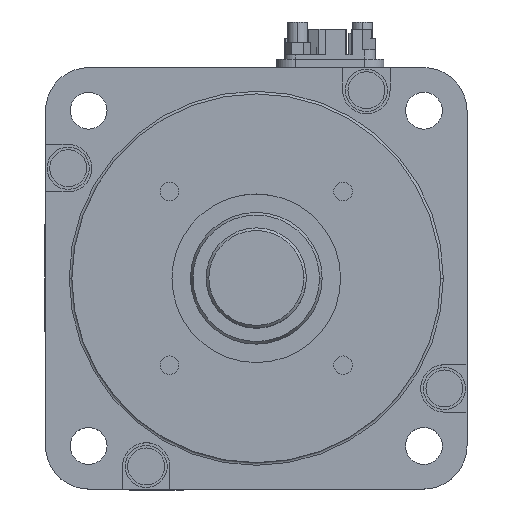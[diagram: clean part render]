
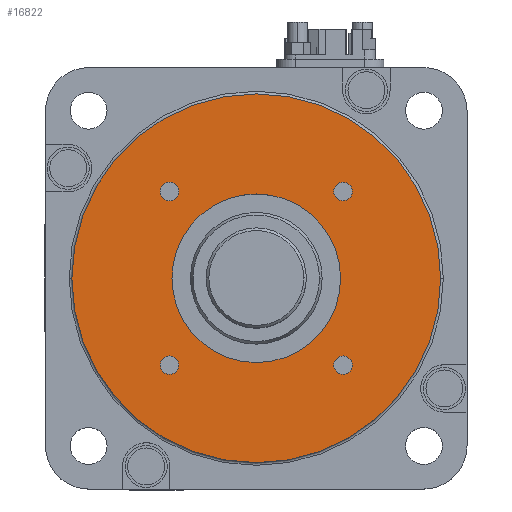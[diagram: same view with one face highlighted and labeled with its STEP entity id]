
A CAD part, top view. The second image highlights one B-rep face of the part: STEP entity #16822.
In plain terms, the highlighted planar face has unit normal (0, 0, 1).
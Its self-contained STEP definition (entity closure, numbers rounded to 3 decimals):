
#28 = EDGE_CURVE ( 'NONE', #3398, #453, #7242, .T. ) ;
#31 = FACE_BOUND ( 'NONE', #11445, .T. ) ;
#201 = CARTESIAN_POINT ( 'NONE',  ( -16.476, 16.476, 3. ) ) ;
#213 = VERTEX_POINT ( 'NONE', #712 ) ;
#236 = CARTESIAN_POINT ( 'NONE',  ( -16.476, -16.476, 3. ) ) ;
#407 = AXIS2_PLACEMENT_3D ( 'NONE', #236, #11224, #1831 ) ;
#453 = VERTEX_POINT ( 'NONE', #6828 ) ;
#604 = EDGE_CURVE ( 'NONE', #2111, #931, #1039, .T. ) ;
#652 = DIRECTION ( 'NONE',  ( 1., 0., 0. ) ) ;
#712 = CARTESIAN_POINT ( 'NONE',  ( 14.726, -16.476, 3. ) ) ;
#886 = DIRECTION ( 'NONE',  ( 0., 0., 1. ) ) ;
#931 = VERTEX_POINT ( 'NONE', #17117 ) ;
#934 = ORIENTED_EDGE ( 'NONE', *, *, #20324, .F. ) ;
#1039 = CIRCLE ( 'NONE', #17967, 1.75 ) ;
#1301 = VERTEX_POINT ( 'NONE', #15784 ) ;
#1507 = CARTESIAN_POINT ( 'NONE',  ( -16.476, -16.476, 3. ) ) ;
#1652 = AXIS2_PLACEMENT_3D ( 'NONE', #14208, #17245, #9439 ) ;
#1831 = DIRECTION ( 'NONE',  ( 1., 0., 0. ) ) ;
#1932 = CARTESIAN_POINT ( 'NONE',  ( 0., 0., 3. ) ) ;
#2111 = VERTEX_POINT ( 'NONE', #4264 ) ;
#2142 = AXIS2_PLACEMENT_3D ( 'NONE', #10310, #886, #11890 ) ;
#2217 = EDGE_LOOP ( 'NONE', ( #8489, #5411 ) ) ;
#2540 = CARTESIAN_POINT ( 'NONE',  ( 0., 0., 3. ) ) ;
#2639 = EDGE_CURVE ( 'NONE', #18882, #213, #10426, .T. ) ;
#2669 = AXIS2_PLACEMENT_3D ( 'NONE', #1932, #17630, #9824 ) ;
#2700 = VERTEX_POINT ( 'NONE', #9839 ) ;
#2847 = DIRECTION ( 'NONE',  ( 0., 0., 1. ) ) ;
#3065 = DIRECTION ( 'NONE',  ( 1., 0., 0. ) ) ;
#3312 = CIRCLE ( 'NONE', #407, 1.75 ) ;
#3387 = EDGE_LOOP ( 'NONE', ( #934, #4587 ) ) ;
#3398 = VERTEX_POINT ( 'NONE', #11841 ) ;
#3702 = FACE_OUTER_BOUND ( 'NONE', #15011, .T. ) ;
#4052 = DIRECTION ( 'NONE',  ( 0., 0., 1. ) ) ;
#4086 = CARTESIAN_POINT ( 'NONE',  ( -14.726, -16.476, 3. ) ) ;
#4124 = DIRECTION ( 'NONE',  ( 1., 0., 0. ) ) ;
#4199 = FACE_BOUND ( 'NONE', #2217, .T. ) ;
#4264 = CARTESIAN_POINT ( 'NONE',  ( -18.226, 16.476, 3. ) ) ;
#4266 = AXIS2_PLACEMENT_3D ( 'NONE', #1507, #12526, #3065 ) ;
#4334 = DIRECTION ( 'NONE',  ( 0., 0., 1. ) ) ;
#4516 = ORIENTED_EDGE ( 'NONE', *, *, #604, .F. ) ;
#4587 = ORIENTED_EDGE ( 'NONE', *, *, #10850, .F. ) ;
#4633 = EDGE_CURVE ( 'NONE', #453, #3398, #8004, .T. ) ;
#5140 = DIRECTION ( 'NONE',  ( 0., 0., 1. ) ) ;
#5411 = ORIENTED_EDGE ( 'NONE', *, *, #10492, .F. ) ;
#6119 = EDGE_CURVE ( 'NONE', #213, #18882, #6882, .T. ) ;
#6456 = CIRCLE ( 'NONE', #18692, 16. ) ;
#6665 = CARTESIAN_POINT ( 'NONE',  ( 0., 0., 3. ) ) ;
#6739 = CIRCLE ( 'NONE', #9762, 1.75 ) ;
#6828 = CARTESIAN_POINT ( 'NONE',  ( -35., 0., 3. ) ) ;
#6882 = CIRCLE ( 'NONE', #2142, 1.75 ) ;
#6975 = AXIS2_PLACEMENT_3D ( 'NONE', #13775, #4334, #15315 ) ;
#7242 = CIRCLE ( 'NONE', #2669, 35. ) ;
#7297 = CIRCLE ( 'NONE', #12726, 1.75 ) ;
#7895 = FACE_BOUND ( 'NONE', #14751, .T. ) ;
#8004 = CIRCLE ( 'NONE', #15874, 35. ) ;
#8092 = VERTEX_POINT ( 'NONE', #19208 ) ;
#8267 = DIRECTION ( 'NONE',  ( 1., 0., 0. ) ) ;
#8489 = ORIENTED_EDGE ( 'NONE', *, *, #17915, .F. ) ;
#8652 = DIRECTION ( 'NONE',  ( 0., 0., 1. ) ) ;
#9192 = ORIENTED_EDGE ( 'NONE', *, *, #4633, .T. ) ;
#9439 = DIRECTION ( 'NONE',  ( 1., 0., 0. ) ) ;
#9762 = AXIS2_PLACEMENT_3D ( 'NONE', #14598, #5140, #16156 ) ;
#9824 = DIRECTION ( 'NONE',  ( 1., 0., 0. ) ) ;
#9839 = CARTESIAN_POINT ( 'NONE',  ( 18.226, 16.476, 3. ) ) ;
#10096 = DIRECTION ( 'NONE',  ( 0., 0., 1. ) ) ;
#10207 = VERTEX_POINT ( 'NONE', #4086 ) ;
#10310 = CARTESIAN_POINT ( 'NONE',  ( 16.476, -16.476, 3. ) ) ;
#10426 = CIRCLE ( 'NONE', #1652, 1.75 ) ;
#10492 = EDGE_CURVE ( 'NONE', #1301, #10207, #3312, .T. ) ;
#10850 = EDGE_CURVE ( 'NONE', #14700, #2700, #17786, .T. ) ;
#11224 = DIRECTION ( 'NONE',  ( 0., 0., 1. ) ) ;
#11445 = EDGE_LOOP ( 'NONE', ( #19632, #4516 ) ) ;
#11841 = CARTESIAN_POINT ( 'NONE',  ( 35., 0., 3. ) ) ;
#11890 = DIRECTION ( 'NONE',  ( 1., 0., 0. ) ) ;
#12147 = ORIENTED_EDGE ( 'NONE', *, *, #6119, .F. ) ;
#12310 = CARTESIAN_POINT ( 'NONE',  ( 0., 0., 3. ) ) ;
#12526 = DIRECTION ( 'NONE',  ( 0., 0., 1. ) ) ;
#12726 = AXIS2_PLACEMENT_3D ( 'NONE', #13492, #4052, #15042 ) ;
#12817 = CARTESIAN_POINT ( 'NONE',  ( 14.726, 16.476, 3. ) ) ;
#13016 = EDGE_CURVE ( 'NONE', #19253, #8092, #6456, .T. ) ;
#13492 = CARTESIAN_POINT ( 'NONE',  ( 16.476, 16.476, 3. ) ) ;
#13563 = DIRECTION ( 'NONE',  ( 0., 0., 1. ) ) ;
#13775 = CARTESIAN_POINT ( 'NONE',  ( 16.476, 16.476, 3. ) ) ;
#13884 = DIRECTION ( 'NONE',  ( 1., 0., 0. ) ) ;
#14208 = CARTESIAN_POINT ( 'NONE',  ( 16.476, -16.476, 3. ) ) ;
#14259 = EDGE_LOOP ( 'NONE', ( #14657, #12147 ) ) ;
#14598 = CARTESIAN_POINT ( 'NONE',  ( -16.476, 16.476, 3. ) ) ;
#14657 = ORIENTED_EDGE ( 'NONE', *, *, #2639, .F. ) ;
#14700 = VERTEX_POINT ( 'NONE', #12817 ) ;
#14751 = EDGE_LOOP ( 'NONE', ( #15519, #18614 ) ) ;
#15011 = EDGE_LOOP ( 'NONE', ( #9192, #16460 ) ) ;
#15042 = DIRECTION ( 'NONE',  ( 1., 0., 0. ) ) ;
#15315 = DIRECTION ( 'NONE',  ( 1., 0., 0. ) ) ;
#15519 = ORIENTED_EDGE ( 'NONE', *, *, #17308, .F. ) ;
#15784 = CARTESIAN_POINT ( 'NONE',  ( -18.226, -16.476, 3. ) ) ;
#15874 = AXIS2_PLACEMENT_3D ( 'NONE', #12310, #2847, #13884 ) ;
#15943 = EDGE_CURVE ( 'NONE', #931, #2111, #6739, .T. ) ;
#16041 = CIRCLE ( 'NONE', #4266, 1.75 ) ;
#16156 = DIRECTION ( 'NONE',  ( 1., 0., 0. ) ) ;
#16246 = FACE_BOUND ( 'NONE', #14259, .T. ) ;
#16460 = ORIENTED_EDGE ( 'NONE', *, *, #28, .T. ) ;
#16560 = PLANE ( 'NONE',  #20003 ) ;
#16822 = ADVANCED_FACE ( 'NONE', ( #16246, #4199, #31, #17726, #7895, #3702 ), #16560, .T. ) ;
#17117 = CARTESIAN_POINT ( 'NONE',  ( -14.726, 16.476, 3. ) ) ;
#17245 = DIRECTION ( 'NONE',  ( 0., 0., 1. ) ) ;
#17308 = EDGE_CURVE ( 'NONE', #8092, #19253, #18012, .T. ) ;
#17630 = DIRECTION ( 'NONE',  ( 0., 0., 1. ) ) ;
#17662 = DIRECTION ( 'NONE',  ( 0., 0., 1. ) ) ;
#17724 = DIRECTION ( 'NONE',  ( 1., 0., 0. ) ) ;
#17726 = FACE_BOUND ( 'NONE', #3387, .T. ) ;
#17786 = CIRCLE ( 'NONE', #6975, 1.75 ) ;
#17915 = EDGE_CURVE ( 'NONE', #10207, #1301, #16041, .T. ) ;
#17967 = AXIS2_PLACEMENT_3D ( 'NONE', #201, #8652, #17724 ) ;
#18012 = CIRCLE ( 'NONE', #19881, 16. ) ;
#18614 = ORIENTED_EDGE ( 'NONE', *, *, #13016, .F. ) ;
#18692 = AXIS2_PLACEMENT_3D ( 'NONE', #6665, #17662, #8267 ) ;
#18882 = VERTEX_POINT ( 'NONE', #20117 ) ;
#19208 = CARTESIAN_POINT ( 'NONE',  ( 16., 0., 3. ) ) ;
#19253 = VERTEX_POINT ( 'NONE', #19643 ) ;
#19455 = CARTESIAN_POINT ( 'NONE',  ( 0., 0., 3. ) ) ;
#19632 = ORIENTED_EDGE ( 'NONE', *, *, #15943, .F. ) ;
#19643 = CARTESIAN_POINT ( 'NONE',  ( -16., 0., 3. ) ) ;
#19881 = AXIS2_PLACEMENT_3D ( 'NONE', #19455, #10096, #652 ) ;
#20003 = AXIS2_PLACEMENT_3D ( 'NONE', #2540, #13563, #4124 ) ;
#20117 = CARTESIAN_POINT ( 'NONE',  ( 18.226, -16.476, 3. ) ) ;
#20324 = EDGE_CURVE ( 'NONE', #2700, #14700, #7297, .T. ) ;
